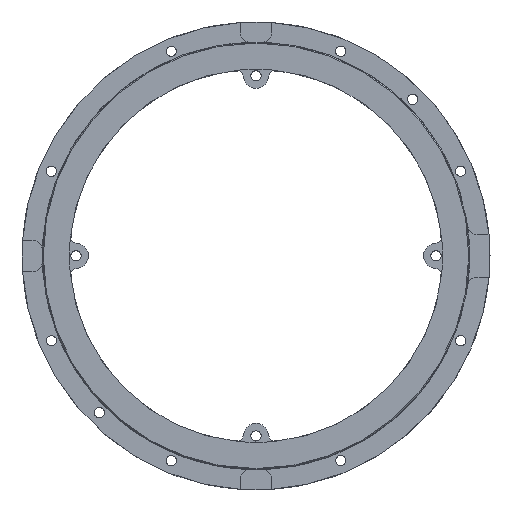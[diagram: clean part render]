
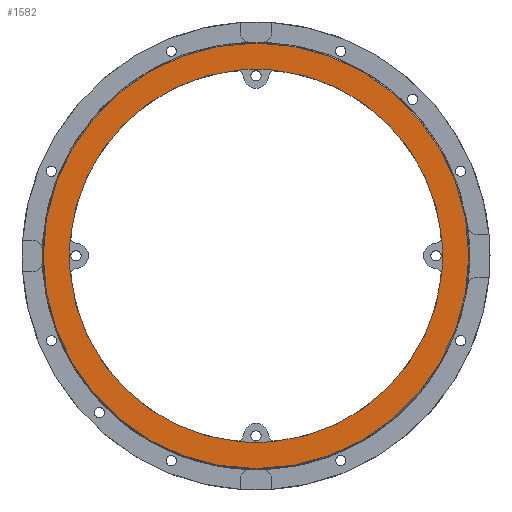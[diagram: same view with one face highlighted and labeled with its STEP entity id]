
A CAD part, top view. The second image highlights one B-rep face of the part: STEP entity #1582.
In plain terms, the highlighted planar face has unit normal (0, 0, 1).
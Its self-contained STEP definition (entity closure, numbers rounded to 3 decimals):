
#30=FACE_BOUND('',#231,.T.);
#72=PLANE('',#1732);
#128=FACE_OUTER_BOUND('',#230,.T.);
#230=EDGE_LOOP('',(#1210));
#231=EDGE_LOOP('',(#1211,#1212,#1213,#1214,#1215,#1216,#1217,#1218));
#583=CIRCLE('',#1731,68.2);
#584=CIRCLE('',#1733,59.8);
#585=CIRCLE('',#1734,59.8);
#586=CIRCLE('',#1735,59.8);
#587=CIRCLE('',#1736,59.8);
#588=CIRCLE('',#1737,59.8);
#589=CIRCLE('',#1738,59.8);
#590=CIRCLE('',#1739,59.8);
#591=CIRCLE('',#1740,59.8);
#722=VERTEX_POINT('',#2607);
#723=VERTEX_POINT('',#2611);
#724=VERTEX_POINT('',#2612);
#725=VERTEX_POINT('',#2614);
#726=VERTEX_POINT('',#2616);
#727=VERTEX_POINT('',#2618);
#728=VERTEX_POINT('',#2620);
#729=VERTEX_POINT('',#2622);
#730=VERTEX_POINT('',#2624);
#903=EDGE_CURVE('',#722,#722,#583,.T.);
#904=EDGE_CURVE('',#723,#724,#584,.T.);
#905=EDGE_CURVE('',#724,#725,#585,.T.);
#906=EDGE_CURVE('',#725,#726,#586,.T.);
#907=EDGE_CURVE('',#726,#727,#587,.T.);
#908=EDGE_CURVE('',#727,#728,#588,.T.);
#909=EDGE_CURVE('',#728,#729,#589,.T.);
#910=EDGE_CURVE('',#729,#730,#590,.T.);
#911=EDGE_CURVE('',#730,#723,#591,.T.);
#1210=ORIENTED_EDGE('',*,*,#903,.F.);
#1211=ORIENTED_EDGE('',*,*,#904,.T.);
#1212=ORIENTED_EDGE('',*,*,#905,.T.);
#1213=ORIENTED_EDGE('',*,*,#906,.T.);
#1214=ORIENTED_EDGE('',*,*,#907,.T.);
#1215=ORIENTED_EDGE('',*,*,#908,.T.);
#1216=ORIENTED_EDGE('',*,*,#909,.T.);
#1217=ORIENTED_EDGE('',*,*,#910,.T.);
#1218=ORIENTED_EDGE('',*,*,#911,.T.);
#1582=ADVANCED_FACE('',(#128,#30),#72,.T.);
#1731=AXIS2_PLACEMENT_3D('',#2609,#2083,#2084);
#1732=AXIS2_PLACEMENT_3D('',#2610,#2085,#2086);
#1733=AXIS2_PLACEMENT_3D('',#2613,#2087,#2088);
#1734=AXIS2_PLACEMENT_3D('',#2615,#2089,#2090);
#1735=AXIS2_PLACEMENT_3D('',#2617,#2091,#2092);
#1736=AXIS2_PLACEMENT_3D('',#2619,#2093,#2094);
#1737=AXIS2_PLACEMENT_3D('',#2621,#2095,#2096);
#1738=AXIS2_PLACEMENT_3D('',#2623,#2097,#2098);
#1739=AXIS2_PLACEMENT_3D('',#2625,#2099,#2100);
#1740=AXIS2_PLACEMENT_3D('',#2626,#2101,#2102);
#2083=DIRECTION('center_axis',(0.,0.,
-1.));
#2084=DIRECTION('ref_axis',(-1.,0.,0.));
#2085=DIRECTION('center_axis',(0.,0.,
1.));
#2086=DIRECTION('ref_axis',(-1.,0.,0.));
#2087=DIRECTION('center_axis',(0.,0.,
-1.));
#2088=DIRECTION('ref_axis',(1.,0.,0.));
#2089=DIRECTION('center_axis',(0.,0.,
-1.));
#2090=DIRECTION('ref_axis',(1.,0.,0.));
#2091=DIRECTION('center_axis',(0.,0.,
-1.));
#2092=DIRECTION('ref_axis',(1.,0.,0.));
#2093=DIRECTION('center_axis',(0.,0.,
-1.));
#2094=DIRECTION('ref_axis',(1.,0.,0.));
#2095=DIRECTION('center_axis',(0.,0.,
-1.));
#2096=DIRECTION('ref_axis',(1.,0.,0.));
#2097=DIRECTION('center_axis',(0.,0.,
-1.));
#2098=DIRECTION('ref_axis',(1.,0.,0.));
#2099=DIRECTION('center_axis',(0.,0.,
-1.));
#2100=DIRECTION('ref_axis',(1.,0.,0.));
#2101=DIRECTION('center_axis',(0.,0.,
-1.));
#2102=DIRECTION('ref_axis',(1.,0.,0.));
#2607=CARTESIAN_POINT('',(68.2,-0.116,-237.6));
#2609=CARTESIAN_POINT('Origin',(0.,-0.116,-237.6));
#2610=CARTESIAN_POINT('Origin',(68.5,-0.116,-237.6));
#2611=CARTESIAN_POINT('',(-5.695,-59.644,-237.6));
#2612=CARTESIAN_POINT('',(-59.53,-5.794,-237.6));
#2613=CARTESIAN_POINT('Origin',(0.,-0.116,-237.6));
#2614=CARTESIAN_POINT('',(-59.528,5.579,-237.6));
#2615=CARTESIAN_POINT('Origin',(0.,-0.116,-237.6));
#2616=CARTESIAN_POINT('',(-5.678,59.414,-237.6));
#2617=CARTESIAN_POINT('Origin',(0.,-0.116,-237.6));
#2618=CARTESIAN_POINT('',(5.695,59.412,-237.6));
#2619=CARTESIAN_POINT('Origin',(0.,-0.116,-237.6));
#2620=CARTESIAN_POINT('',(59.53,5.562,-237.6));
#2621=CARTESIAN_POINT('Origin',(0.,-0.116,-237.6));
#2622=CARTESIAN_POINT('',(59.528,-5.811,-237.6));
#2623=CARTESIAN_POINT('Origin',(0.,-0.116,-237.6));
#2624=CARTESIAN_POINT('',(5.678,-59.646,-237.6));
#2625=CARTESIAN_POINT('Origin',(0.,-0.116,-237.6));
#2626=CARTESIAN_POINT('Origin',(0.,-0.116,-237.6));
